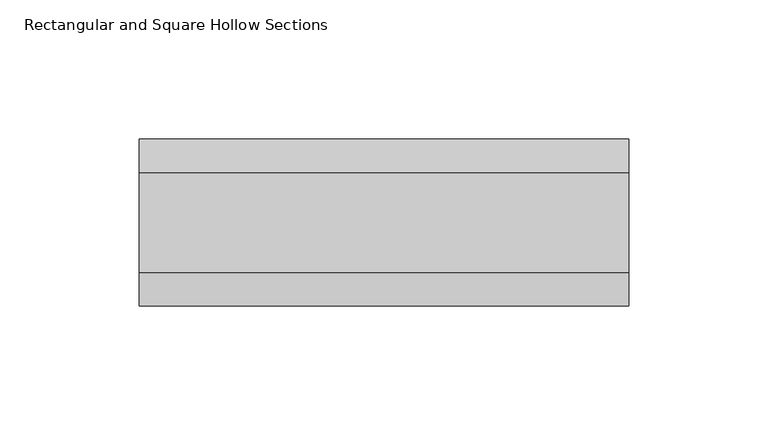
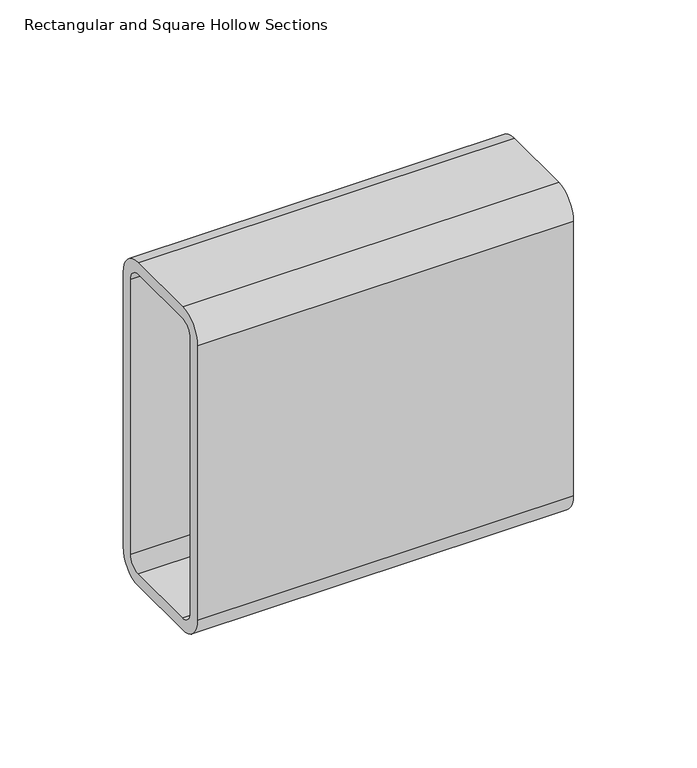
"""IFC4 building model written with IfcOpenShell, lengths in millimetres: beam geometry, Rectangular and Square Hollow Sections : TREC160x60x6."""

from ifc_helpers import new_model, si_unit, point, frame, frame_2d, origin, place, context, project, spatial, polyline, circle_curve, trimmed, segment, composite_curve, outline, extrude, source, transform, mapped, element, save


def rectangular_and_square_hollow_sections_e5729320(model_context):
    return source(origin(), model_context, "Body", "SweptSolid", [
        extrude(outline(composite_curve([segment(polyline([(30.0, 68.0), (30.0, -68.0)]), True, "CONTINUOUS"), segment(trimmed(circle_curve(frame_2d((18.0, -68.0)), 12.0), [point((30.0, -68.0))], [point((18.0, -80.0))], False, "CARTESIAN"), True, "CONTINUOUS"), segment(polyline([(18.0, -80.0), (-18.0, -80.0)]), True, "CONTINUOUS"), segment(trimmed(circle_curve(frame_2d((-18.0, -68.0)), 12.0), [point((-18.0, -80.0))], [point((-30.0, -68.0))], False, "CARTESIAN"), True, "CONTINUOUS"), segment(polyline([(-30.0, -68.0), (-30.0, 68.0)]), True, "CONTINUOUS"), segment(trimmed(circle_curve(frame_2d((-18.0, 68.0)), 12.0), [point((-30.0, 68.0))], [point((-18.0, 80.0))], False, "CARTESIAN"), True, "CONTINUOUS"), segment(polyline([(-18.0, 80.0), (18.0, 80.0)]), True, "CONTINUOUS"), segment(trimmed(circle_curve(frame_2d((18.0, 68.0)), 12.0), [point((18.0, 80.0))], [point((30.0, 68.0))], False, "CARTESIAN"), True, "CONTINUOUS")], self_intersect=False), holes=[composite_curve([segment(trimmed(circle_curve(frame_2d((-18.0, 68.0)), 6.0), [point((-18.0, 74.0))], [point((-24.0, 68.0))], True, "CARTESIAN"), True, "CONTINUOUS"), segment(polyline([(-24.0, 68.0), (-24.0, -68.0)]), True, "CONTINUOUS"), segment(trimmed(circle_curve(frame_2d((-18.0, -68.0)), 6.0), [point((-24.0, -68.0))], [point((-18.0, -74.0))], True, "CARTESIAN"), True, "CONTINUOUS"), segment(polyline([(-18.0, -74.0), (18.0, -74.0)]), True, "CONTINUOUS"), segment(trimmed(circle_curve(frame_2d((18.0, -68.0)), 6.0), [point((18.0, -74.0))], [point((24.0, -68.0))], True, "CARTESIAN"), True, "CONTINUOUS"), segment(polyline([(24.0, -68.0), (24.0, 68.0)]), True, "CONTINUOUS"), segment(trimmed(circle_curve(frame_2d((18.0, 68.0)), 6.0), [point((24.0, 68.0))], [point((18.0, 74.0))], True, "CARTESIAN"), True, "CONTINUOUS"), segment(polyline([(18.0, 74.0), (-18.0, 74.0)]), True, "CONTINUOUS")], self_intersect=False)]), frame((-94.5, 0.0, 0.0), z_axis=(1.0, 0.0, 0.0), x_axis=(0.0, 1.0, 0.0)), (0.0, 0.0, 1.0), 176.0),
    ])


if __name__ == "__main__":
    model = new_model("IFC4")
    model_context = context("Model", 3, world=origin())
    ifc_project = project(units=[si_unit("LENGTHUNIT", "METRE", prefix="MILLI")], contexts=[model_context])
    site = spatial("IfcSite", under=ifc_project)
    building = spatial("IfcBuilding", under=site)
    placement = place(None, origin())
    rectangular_and_square_hollow_sections_shape = rectangular_and_square_hollow_sections_e5729320(model_context)
    element("IfcBeam", 1, ObjectType="Rectangular and Square Hollow Sections : TREC160x60x6", at=placement, inside=building, context=model_context, shape_type="MappedRepresentation", body=[
        mapped(rectangular_and_square_hollow_sections_shape, transform((0.0, 0.0, 0.0), x_axis=(1.0, 0.0, 0.0), y_axis=(0.0, 1.0, 0.0), z_axis=(0.0, 0.0, 1.0))),
    ])
    save(model, "model.ifc")
